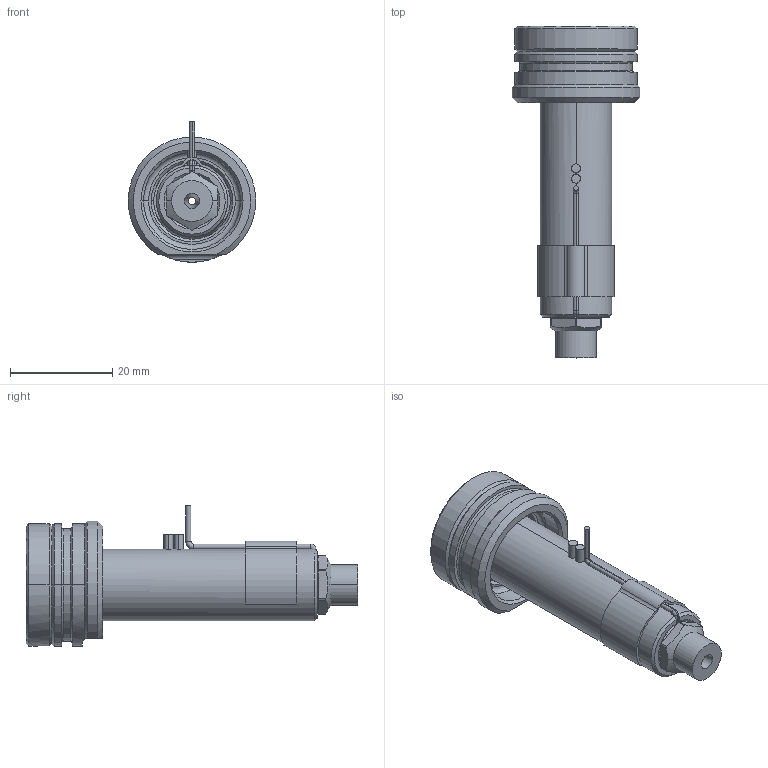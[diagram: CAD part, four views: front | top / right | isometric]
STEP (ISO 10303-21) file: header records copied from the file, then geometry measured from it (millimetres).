
FILE_DESCRIPTION((''),'2;1');
FILE_NAME('EO04_SG_SG_050_SW','2024-02-19T12:10:58',('sundharh'),(''),'CREO PARAMETRIC BY PTC INC, 2023154','CREO PARAMETRIC BY PTC INC, 2023154','');
FILE_SCHEMA(('CONFIG_CONTROL_DESIGN'));
Length unit declared in the file: millimetre
Products named in the file (1): EO04_SG_SG_050_SW
Bounding box: 24.99 x 65 x 27.5 mm (x, y, z)
Volume: 12258.3 mm3; surface area: 6544.2 mm2
Topology: 2 solids, 2 shells, 182 faces, 461 edges, 277 vertices
Faces by surface type: cylinder 67, plane 45, cone 34, torus 22, bspline 11, sphere 3
Entity records: 6336 total; most frequent: CARTESIAN_POINT 1941, DIRECTION 952, ORIENTED_EDGE 906, EDGE_CURVE 453, AXIS2_PLACEMENT_3D 396, VERTEX_POINT 277, CIRCLE 225, EDGE_LOOP 196
